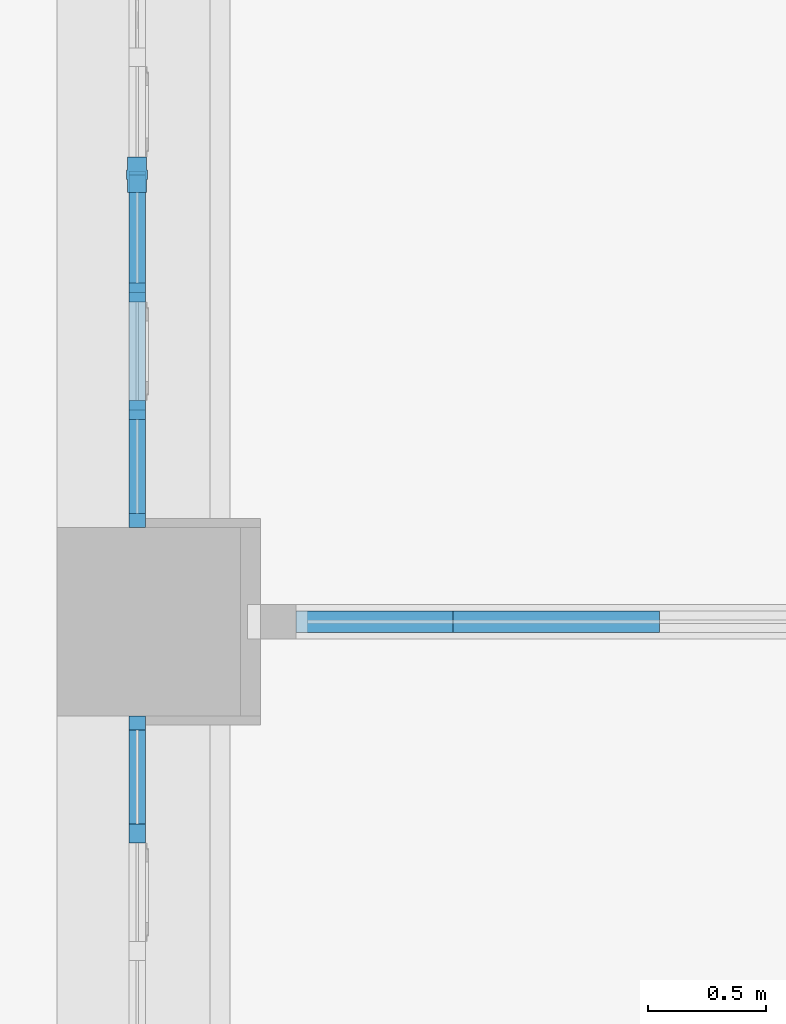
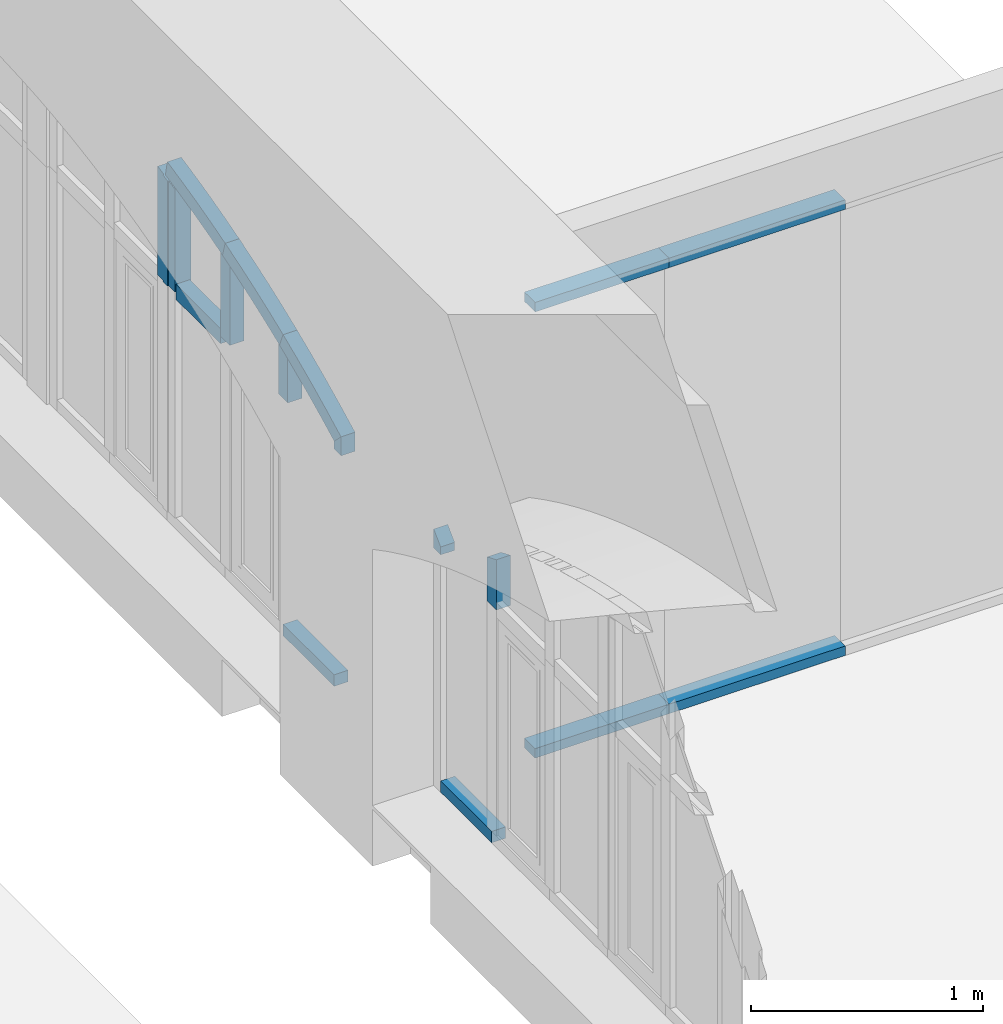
# One storey, part 29 of 88: 16 members, 3 elements without a shape of their own.
"""IFC2X3 building model written with IfcOpenShell, lengths in millimetres."""

from ifc_helpers import new_model, entity, si_unit, converted_unit, derived_unit, direction, frame, frame_2d, origin, place, context, subcontext, project, spatial, polyline, circle_curve, parameter, trimmed, segment, composite_curve, rectangle, outline, extrude, faceted_brep, source, transform, mapped, material, type_object, type_shapes, element, aggregate, save


model = new_model("IFC2X3")

# Units and contexts
model_context = context("Model", 3, precision=0.01, world=origin(), true_north=direction((6.123031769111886e-17, 1.0)))
body_context = subcontext(model_context, "Body", "Model", "MODEL_VIEW")
ifc_project = project(units=[si_unit("LENGTHUNIT", "METRE", prefix="MILLI"), si_unit("AREAUNIT", "SQUARE_METRE"), si_unit("VOLUMEUNIT", "CUBIC_METRE"), converted_unit("PLANEANGLEUNIT", "DEGREE", entity("IfcPlaneAngleMeasure", 0.017453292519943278), si_unit("PLANEANGLEUNIT", "RADIAN"), dimensions=[0, 0, 0, 0, 0, 0, 0]), si_unit("MASSUNIT", "GRAM", prefix="KILO"), derived_unit("MASSDENSITYUNIT", [(si_unit("MASSUNIT", "GRAM", prefix="KILO"), 1), (si_unit("LENGTHUNIT", "METRE"), -3)]), derived_unit("IONCONCENTRATIONUNIT", [(si_unit("MASSUNIT", "GRAM", prefix="KILO"), 1), (si_unit("LENGTHUNIT", "METRE"), -3)]), derived_unit("MOMENTOFINERTIAUNIT", [(si_unit("LENGTHUNIT", "METRE"), 4)]), si_unit("TIMEUNIT", "SECOND"), si_unit("FREQUENCYUNIT", "HERTZ"), si_unit("THERMODYNAMICTEMPERATUREUNIT", "DEGREE_CELSIUS"), derived_unit("THERMALTRANSMITTANCEUNIT", [(si_unit("MASSUNIT", "GRAM", prefix="KILO"), 1), (si_unit("THERMODYNAMICTEMPERATUREUNIT", "KELVIN"), -1), (si_unit("TIMEUNIT", "SECOND"), -3)]), derived_unit("THERMALCONDUCTANCEUNIT", [(si_unit("MASSUNIT", "GRAM", prefix="KILO"), 1), (si_unit("THERMODYNAMICTEMPERATUREUNIT", "KELVIN"), -1), (si_unit("TIMEUNIT", "SECOND"), -3), (si_unit("LENGTHUNIT", "METRE"), 1)]), derived_unit("VOLUMETRICFLOWRATEUNIT", [(si_unit("LENGTHUNIT", "METRE", prefix="DECI"), 3), (si_unit("TIMEUNIT", "SECOND"), -1)]), derived_unit("MASSFLOWRATEUNIT", [(si_unit("MASSUNIT", "GRAM", prefix="KILO"), 1), (si_unit("TIMEUNIT", "SECOND"), -1)]), derived_unit("ROTATIONALFREQUENCYUNIT", [(si_unit("TIMEUNIT", "SECOND"), -1)]), si_unit("ELECTRICCURRENTUNIT", "AMPERE"), si_unit("ELECTRICVOLTAGEUNIT", "VOLT"), si_unit("POWERUNIT", "WATT"), si_unit("FORCEUNIT", "NEWTON", prefix="KILO"), si_unit("ILLUMINANCEUNIT", "LUX"), si_unit("LUMINOUSFLUXUNIT", "LUMEN"), si_unit("LUMINOUSINTENSITYUNIT", "CANDELA"), si_unit("ENERGYUNIT", "JOULE"), derived_unit("USERDEFINED", [(si_unit("MASSUNIT", "GRAM", prefix="KILO"), -1), (si_unit("LENGTHUNIT", "METRE"), -2), (si_unit("TIMEUNIT", "SECOND"), 3), (si_unit("LUMINOUSFLUXUNIT", "LUMEN"), 1)]), derived_unit("USERDEFINED", [(si_unit("MASSUNIT", "GRAM", prefix="KILO"), 1), (si_unit("TIMEUNIT", "SECOND"), -3), (si_unit("LENGTHUNIT", "METRE"), 3), (si_unit("ELECTRICCURRENTUNIT", "AMPERE"), -2)]), derived_unit("SOUNDPOWERUNIT", [(si_unit("MASSUNIT", "GRAM", prefix="KILO"), 1), (si_unit("TIMEUNIT", "SECOND"), -3), (si_unit("LENGTHUNIT", "METRE"), 2)]), derived_unit("SOUNDPRESSUREUNIT", [(si_unit("MASSUNIT", "GRAM", prefix="KILO"), 1), (si_unit("LENGTHUNIT", "METRE"), -1), (si_unit("TIMEUNIT", "SECOND"), -2)]), derived_unit("LINEARVELOCITYUNIT", [(si_unit("LENGTHUNIT", "METRE"), 1), (si_unit("TIMEUNIT", "SECOND"), -1)]), si_unit("PRESSUREUNIT", "PASCAL"), derived_unit("USERDEFINED", [(si_unit("MASSUNIT", "GRAM", prefix="KILO"), 1), (si_unit("LENGTHUNIT", "METRE"), -2), (si_unit("TIMEUNIT", "SECOND"), -2)]), derived_unit("LINEARFORCEUNIT", [(si_unit("MASSUNIT", "GRAM", prefix="KILO"), 1), (si_unit("TIMEUNIT", "SECOND"), -2)]), derived_unit("PLANARFORCEUNIT", [(si_unit("MASSUNIT", "GRAM", prefix="KILO"), 1), (si_unit("LENGTHUNIT", "METRE"), -1), (si_unit("TIMEUNIT", "SECOND"), -2)]), derived_unit("SPECIFICHEATCAPACITYUNIT", [(si_unit("THERMODYNAMICTEMPERATUREUNIT", "KELVIN"), -1), (si_unit("LENGTHUNIT", "METRE"), 2), (si_unit("TIMEUNIT", "SECOND"), -2)]), derived_unit("HEATFLUXDENSITYUNIT", [(si_unit("MASSUNIT", "GRAM", prefix="KILO"), 1), (si_unit("TIMEUNIT", "SECOND"), -3)]), derived_unit("HEATINGVALUEUNIT", [(si_unit("LENGTHUNIT", "METRE"), 2), (si_unit("TIMEUNIT", "SECOND"), -2)]), derived_unit("VAPORPERMEABILITYUNIT", [(si_unit("LENGTHUNIT", "METRE"), -1), (si_unit("TIMEUNIT", "SECOND"), 1)]), derived_unit("DYNAMICVISCOSITYUNIT", [(si_unit("MASSUNIT", "GRAM", prefix="KILO"), 1), (si_unit("TIMEUNIT", "SECOND"), -1), (si_unit("LENGTHUNIT", "METRE"), -1)]), derived_unit("THERMALEXPANSIONCOEFFICIENTUNIT", [(si_unit("THERMODYNAMICTEMPERATUREUNIT", "KELVIN"), -1)]), derived_unit("MODULUSOFELASTICITYUNIT", [(si_unit("MASSUNIT", "GRAM", prefix="KILO"), 1), (si_unit("LENGTHUNIT", "METRE"), -1), (si_unit("TIMEUNIT", "SECOND"), -2)]), derived_unit("ISOTHERMALMOISTURECAPACITYUNIT", [(si_unit("MASSUNIT", "GRAM", prefix="KILO"), -1), (si_unit("LENGTHUNIT", "METRE"), 3)]), derived_unit("MOISTUREDIFFUSIVITYUNIT", [(si_unit("TIMEUNIT", "SECOND"), -1), (si_unit("LENGTHUNIT", "METRE"), 2)]), derived_unit("MASSPERLENGTHUNIT", [(si_unit("MASSUNIT", "GRAM", prefix="KILO"), 1), (si_unit("LENGTHUNIT", "METRE"), -1)]), derived_unit("THERMALRESISTANCEUNIT", [(si_unit("MASSUNIT", "GRAM", prefix="KILO"), -1), (si_unit("TIMEUNIT", "SECOND"), 3), (si_unit("THERMODYNAMICTEMPERATUREUNIT", "KELVIN"), 1)]), derived_unit("ACCELERATIONUNIT", [(si_unit("LENGTHUNIT", "METRE"), 1), (si_unit("TIMEUNIT", "SECOND"), -2)]), derived_unit("ANGULARVELOCITYUNIT", [(si_unit("TIMEUNIT", "SECOND"), -1), (si_unit("PLANEANGLEUNIT", "RADIAN"), 1)]), derived_unit("LINEARSTIFFNESSUNIT", [(si_unit("MASSUNIT", "GRAM", prefix="KILO"), 1), (si_unit("TIMEUNIT", "SECOND"), -2)]), derived_unit("WARPINGCONSTANTUNIT", [(si_unit("LENGTHUNIT", "METRE"), 6)]), derived_unit("LINEARMOMENTUNIT", [(si_unit("MASSUNIT", "GRAM", prefix="KILO"), 1), (si_unit("LENGTHUNIT", "METRE"), 1), (si_unit("TIMEUNIT", "SECOND"), -2)]), derived_unit("TORQUEUNIT", [(si_unit("MASSUNIT", "GRAM", prefix="KILO"), 1), (si_unit("LENGTHUNIT", "METRE"), 2), (si_unit("TIMEUNIT", "SECOND"), -2)])], contexts=[model_context])

# Site, building, storey
site_placement = place(None, origin())
site = spatial("IfcSite", under=ifc_project, at=site_placement, Name="Default", CompositionType="ELEMENT")
building_placement = place(site_placement, origin())
building = spatial("IfcBuilding", under=site, at=building_placement, Name="Eesti Rahvusraamatukogu hoone renoveerimise projekteerimistööd", CompositionType="ELEMENT")
storey_placement = place(building_placement, origin())
storey = spatial("IfcBuildingStorey", under=building, at=storey_placement, Name="1. korrus", CompositionType="ELEMENT", Elevation=0.0)

# Curtain wall, members
curtain_wall_type_1 = type_object("IfcCurtainWallType", Name="Curtain Wall:VLS Klaasvahesein profiilita 38db", PredefinedType="NOTDEFINED")
curtain_wall_1_placement = place(storey_placement, origin())
curtain_wall_1 = element("IfcCurtainWall", 1, at=curtain_wall_1_placement, inside=storey, type_object=curtain_wall_type_1, Name="Curtain Wall:VLS Klaasvahesein profiilita 38db", ObjectType="Curtain Wall:VLS Klaasvahesein profiilita 38db")
ifc_material_1 = material(Name="Aluminum")
member_type_1 = type_object("IfcMemberType", Name="Rectangular Mullion:50mm x 92mm", PredefinedType="MULLION", material=ifc_material_1)
shared_shape_1 = source(origin(), body_context, "Body", "SweptSolid", [
    extrude(rectangle(XDim=50.0, YDim=92.0, at=frame_2d((0.0, 3.552713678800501e-15), x_axis=(1.0, 0.0))), frame((-25.0, 0.0, -668.0), z_axis=(0.0, 0.0, 1.0), x_axis=(-1.0, 0.0, 0.0)), (0.0, 0.0, 1.0), 668.000000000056),
])
type_shapes(member_type_1, [shared_shape_1])
member_1_placement = place(curtain_wall_1_placement, frame((-35097.499999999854, 18390.0, 4050.0), z_axis=(1.0, 0.0, 0.0), x_axis=(0.0, 0.0, 1.0)))
member_1 = element("IfcMember", 2, at=member_1_placement, type_object=member_type_1, material=ifc_material_1, Name="Rectangular Mullion:50mm x 92mm", ObjectType="Rectangular Mullion:50mm x 92mm", context=body_context, shape_type="MappedRepresentation", body=[
    mapped(shared_shape_1, transform((0.0, 0.0, 0.0), scale=1.0)),
])
member_type_2 = type_object("IfcMemberType", Name="Rectangular Mullion:50mm x 92mm", PredefinedType="MULLION", material=ifc_material_1)
shared_shape_2 = source(origin(), body_context, "Body", "SweptSolid", [
    extrude(rectangle(XDim=50.0, YDim=92.0, at=frame_2d((0.0, 3.552713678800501e-15), x_axis=(1.0, 0.0))), frame((-25.0, 0.0, -877.5000000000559), z_axis=(0.0, 0.0, 1.0), x_axis=(-1.0, 0.0, 0.0)), (0.0, 0.0, 1.0), 877.500000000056),
])
type_shapes(member_type_2, [shared_shape_2])
member_2_placement = place(curtain_wall_1_placement, frame((-34220.0, 18390.0, 4050.0), z_axis=(1.0, 0.0, 0.0), x_axis=(0.0, 0.0, 1.0)))
member_2 = element("IfcMember", 3, at=member_2_placement, type_object=member_type_2, material=ifc_material_1, Name="Rectangular Mullion:50mm x 92mm", ObjectType="Rectangular Mullion:50mm x 92mm", context=body_context, shape_type="MappedRepresentation", body=[
    mapped(shared_shape_2, transform((0.0, 0.0, 0.0), scale=1.0)),
])
member_type_3 = type_object("IfcMemberType", Name="Rectangular Mullion:50mm x 92mm", PredefinedType="MULLION", material=ifc_material_1)
shared_shape_3 = source(origin(), body_context, "Body", "SweptSolid", [
    extrude(rectangle(XDim=50.0, YDim=92.0, at=frame_2d((0.0, 3.552713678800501e-15), x_axis=(1.0, 0.0))), frame((-25.0, 0.0, -668.0), z_axis=(0.0, 0.0, 1.0), x_axis=(-1.0, 0.0, 0.0)), (0.0, 0.0, 1.0), 668.0000000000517),
])
type_shapes(member_type_3, [shared_shape_3])
member_3_placement = place(curtain_wall_1_placement, frame((-35765.499999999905, 18390.0, 1650.0), z_axis=(-1.0, 0.0, 0.0), x_axis=(0.0, 0.0, -1.0)))
member_3 = element("IfcMember", 4, at=member_3_placement, type_object=member_type_3, material=ifc_material_1, Name="Rectangular Mullion:50mm x 92mm", ObjectType="Rectangular Mullion:50mm x 92mm", context=body_context, shape_type="MappedRepresentation", body=[
    mapped(shared_shape_3, transform((0.0, 0.0, 0.0), scale=1.0)),
])
member_type_4 = type_object("IfcMemberType", Name="Rectangular Mullion:50mm x 92mm", PredefinedType="MULLION", material=ifc_material_1)
shared_shape_4 = source(origin(), body_context, "Body", "SweptSolid", [
    extrude(rectangle(XDim=50.0, YDim=92.0, at=frame_2d((0.0, 3.552713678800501e-15), x_axis=(1.0, 0.0))), frame((-25.0, 0.0, -877.5000000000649), z_axis=(0.0, 0.0, 1.0), x_axis=(-1.0, 0.0, 0.0)), (0.0, 0.0, 1.0), 877.5000000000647),
])
type_shapes(member_type_4, [shared_shape_4])
member_4_placement = place(curtain_wall_1_placement, frame((-35097.499999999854, 18390.0, 1650.0), z_axis=(-1.0, 0.0, 0.0), x_axis=(0.0, 0.0, -1.0)))
member_4 = element("IfcMember", 5, at=member_4_placement, type_object=member_type_4, material=ifc_material_1, Name="Rectangular Mullion:50mm x 92mm", ObjectType="Rectangular Mullion:50mm x 92mm", context=body_context, shape_type="MappedRepresentation", body=[
    mapped(shared_shape_4, transform((0.0, 0.0, 0.0), scale=1.0)),
])
aggregate(curtain_wall_1, [member_1, member_2, member_3, member_4])

curtain_wall_type_2 = type_object("IfcCurtainWallType", Name="Curtain Wall:Ak-02", PredefinedType="NOTDEFINED")
curtain_wall_2_placement = place(storey_placement, origin())
curtain_wall_2 = element("IfcCurtainWall", 6, at=curtain_wall_2_placement, inside=storey, type_object=curtain_wall_type_2, Name="Curtain Wall:Ak-02", ObjectType="Curtain Wall:Ak-02")
ifc_material_2 = material(Name="LUMION_dark steel window frames")
member_type_5 = type_object("IfcMemberType", Name="Rectangular Mullion:NEW 80x70mm", PredefinedType="MULLION", material=ifc_material_2)
shared_shape_5 = source(origin(), body_context, "Body", "SweptSolid", [
    extrude(outline(composite_curve([segment(polyline([(-51.95542765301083, -255.69780513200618), (28.044572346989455, -255.69780513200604)]), True, "CONTINUOUS"), segment(trimmed(circle_curve(frame_2d((5468.760252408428, -255.6978051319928), x_axis=(-0.9956372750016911, 0.09330818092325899)), 5440.715680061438), [parameter(3.5622212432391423e-13)], [parameter(5.353953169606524)], True, "PARAMETER"), False, "CONTINUOUS"), segment(polyline([(51.78091865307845, 251.96547789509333), (-27.870063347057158, 259.4301323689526)]), True, "CONTINUOUS"), segment(trimmed(circle_curve(frame_2d((5468.760252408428, -255.6978051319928), x_axis=(-0.9956372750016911, 0.09330818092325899)), 5520.715680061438), [parameter(3.5622212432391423e-13)], [parameter(5.353953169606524)], True, "PARAMETER"), True, "CONTINUOUS")], self_intersect=False)), frame((-51.9554276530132, -35.0, -255.6978051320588), z_axis=(0.0, 1.0, 0.0), x_axis=(-0.9956372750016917, 0.0, 0.09330818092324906)), (0.0, 0.0, 1.0), 70.00000000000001),
])
type_shapes(member_type_5, [shared_shape_5])
member_5_placement = place(curtain_wall_2_placement, frame((-36440.0, 19790.0, 3733.6333100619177), z_axis=(0.0, -0.9570819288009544, -0.289817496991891), x_axis=(0.0, -0.289817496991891, 0.9570819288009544)))
member_5 = element("IfcMember", 7, at=member_5_placement, type_object=member_type_5, material=ifc_material_2, Name="Rectangular Mullion:NEW 80x70mm", ObjectType="Rectangular Mullion:NEW 80x70mm", context=body_context, shape_type="MappedRepresentation", body=[
    mapped(shared_shape_5, transform((0.0, 0.0, 0.0), scale=1.0)),
])
member_type_6 = type_object("IfcMemberType", Name="Rectangular Mullion:NEW 80x70mm", PredefinedType="MULLION", material=ifc_material_2)
shared_shape_6 = source(origin(), body_context, "Body", "SweptSolid", [
    extrude(outline(composite_curve([segment(polyline([(-52.66438607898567, -263.1530214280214), (27.33561392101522, -263.1530214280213)]), True, "CONTINUOUS"), segment(trimmed(circle_curve(frame_2d((5468.05129398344, -263.15302142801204), x_axis=(-0.9953785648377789, 0.09602870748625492)), 5440.715680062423), [parameter(3.5622212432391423e-13)], [parameter(5.510531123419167)], True, "PARAMETER"), False, "CONTINUOUS"), segment(polyline([(52.47952867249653, 259.31187312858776), (-27.150756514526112, 266.99416972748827)]), True, "CONTINUOUS"), segment(trimmed(circle_curve(frame_2d((5468.05129398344, -263.15302142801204), x_axis=(-0.9953785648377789, 0.09602870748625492)), 5520.715680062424), [parameter(3.5622212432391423e-13)], [parameter(5.510531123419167)], True, "PARAMETER"), True, "CONTINUOUS")], self_intersect=False)), frame((-52.66438607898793, -35.0, -263.1530214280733), z_axis=(0.0, 1.0, 0.0), x_axis=(-0.9953785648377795, 0.0, 0.09602870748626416)), (0.0, 0.0, 1.0), 70.0),
])
type_shapes(member_type_6, [shared_shape_6])
member_6_placement = place(curtain_wall_2_placement, frame((-36440.0, 19290.0, 3555.5687442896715), z_axis=(0.0, -0.9248280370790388, -0.38038546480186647), x_axis=(0.0, -0.38038546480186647, 0.9248280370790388)))
member_6 = element("IfcMember", 8, at=member_6_placement, type_object=member_type_6, material=ifc_material_2, Name="Rectangular Mullion:NEW 80x70mm", ObjectType="Rectangular Mullion:NEW 80x70mm", context=body_context, shape_type="MappedRepresentation", body=[
    mapped(shared_shape_6, transform((0.0, 0.0, 0.0), scale=1.0)),
])
member_type_7 = type_object("IfcMemberType", Name="Rectangular Mullion:NEW 80x70mm", PredefinedType="MULLION", material=ifc_material_2)
shared_shape_7 = source(origin(), body_context, "Body", "SweptSolid", [
    extrude(outline(composite_curve([segment(polyline([(-53.11529804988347, -267.70979815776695), (26.884701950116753, -267.709798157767)]), True, "CONTINUOUS"), segment(trimmed(circle_curve(frame_2d((5467.600382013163, -267.70979815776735), x_axis=(-0.9949883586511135, 0.0999908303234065)), 5440.7156800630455), [parameter(0.26669094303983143)], [parameter(5.738642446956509)], True, "PARAMETER"), False, "CONTINUOUS"), segment(polyline([(51.67804717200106, 251.10844964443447), (-25.447451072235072, 284.3111466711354)]), True, "CONTINUOUS"), segment(trimmed(circle_curve(frame_2d((5467.600382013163, -267.70979815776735), x_axis=(-0.9949883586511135, 0.0999908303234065)), 5520.7156800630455), [parameter(3.5622212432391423e-13)], [parameter(5.738642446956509)], True, "PARAMETER"), True, "CONTINUOUS")], self_intersect=False)), frame((-53.748425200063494, -35.0, -280.34176941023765), z_axis=(0.0, 1.0, 0.0), x_axis=(-0.9949883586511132, 0.0, 0.0999908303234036)), (0.0, 0.0, 1.0), 69.99999999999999),
])
type_shapes(member_type_7, [shared_shape_7])
member_7_placement = place(curtain_wall_2_placement, frame((-36440.0, 18790.0, 3320.0), z_axis=(0.0, -0.882158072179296, -0.47095343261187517), x_axis=(0.0, -0.47095343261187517, 0.882158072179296)))
member_7 = element("IfcMember", 9, at=member_7_placement, type_object=member_type_7, material=ifc_material_2, Name="Rectangular Mullion:NEW 80x70mm", ObjectType="Rectangular Mullion:NEW 80x70mm", context=body_context, shape_type="MappedRepresentation", body=[
    mapped(shared_shape_7, transform((0.0, 0.0, 0.0), scale=1.0)),
])

# Curtain wall, member
curtain_wall_3_placement = place(storey_placement, origin())
curtain_wall_3 = element("IfcCurtainWall", 10, at=curtain_wall_3_placement, inside=storey, type_object=curtain_wall_type_2, Name="Curtain Wall:Ak-02", ObjectType="Curtain Wall:Ak-02")
member_type_8 = type_object("IfcMemberType", Name="Rectangular Mullion:NEW 80x70mm", PredefinedType="MULLION", material=ifc_material_2)
shared_shape_8 = source(origin(), body_context, "Body", "SweptSolid", [
    extrude(outline(composite_curve([segment(polyline([(-151.82490852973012, -33.91383256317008), (113.68279751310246, -33.91383256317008)]), True, "CONTINUOUS"), segment(trimmed(circle_curve(frame_2d((-4921.968809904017, -2093.9138325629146), x_axis=(0.9570819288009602, 0.2898174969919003)), 5440.715680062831), [parameter(5.401610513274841)], [parameter(5.510531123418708)], True, "PARAMETER"), True, "CONTINUOUS"), segment(trimmed(circle_curve(frame_2d((-4921.968809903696, -2093.9138325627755), x_axis=(0.9248280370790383, 0.38038546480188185)), 5440.7156800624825), [parameter(0.0)], [parameter(0.8043376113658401)], True, "PARAMETER"), True, "CONTINUOUS"), segment(polyline([(80.20942675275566, 46.08616743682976), (-151.82490852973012, 46.08616743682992)]), True, "CONTINUOUS"), segment(polyline([(-151.82490852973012, 46.08616743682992), (-151.82490852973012, -33.91383256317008)]), True, "CONTINUOUS")], self_intersect=False)), frame((6.086167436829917, -35.0, -151.82490852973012), z_axis=(0.0, 1.0, 0.0), x_axis=(0.0, 0.0, -1.0)), (0.0, 0.0, 1.0), 69.99999999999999),
])
type_shapes(member_type_8, [shared_shape_8])
member_8_placement = place(curtain_wall_3_placement, frame((-36440.0, 17490.0, 3220.0), z_axis=(0.0, 0.0, -1.0), x_axis=(0.0, -1.0, 0.0)))
member_8 = element("IfcMember", 11, at=member_8_placement, type_object=member_type_8, material=ifc_material_2, Name="Rectangular Mullion:NEW 80x70mm", ObjectType="Rectangular Mullion:NEW 80x70mm", context=body_context, shape_type="MappedRepresentation", body=[
    mapped(shared_shape_8, transform((0.0, 0.0, 0.0), scale=1.0)),
])

# Member
member_type_9 = type_object("IfcMemberType", Name="Rectangular Mullion:NEW 150x90mm", PredefinedType="MULLION", material=ifc_material_2)
shared_shape_9 = source(origin(), body_context, "Body", "Brep", [
    faceted_brep([(-20.0, -40.0, 0.0), (-20.0, -45.0, 0.0), (20.0, -45.0, 0.0), (20.0, -40.0, 0.0), (75.0, -40.0, 0.0), (75.0, 40.0, 0.0), (20.0, 40.0, 0.0), (20.0, 45.0, 0.0), (-20.0, 45.0, 0.0), (-20.0, 40.0, 0.0), (-75.0, 40.0, 0.0), (-75.0, -40.0, 0.0), (-20.0, 40.0, -562.3027332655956), (-47.48603249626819, 40.0, -567.7959127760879), (-75.0, 40.0, -573.1474168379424), (75.0, 40.0, -542.1778237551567), (47.51534075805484, 40.0, -548.1824945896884), (20.0, 40.0, -554.044967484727), (-75.0, -40.0, -573.1474168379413), (-47.48603249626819, -40.0, -567.7959127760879), (-20.0, -40.0, -562.3027332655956), (20.0, -40.0, -554.0449674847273), (47.51534075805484, -40.0, -548.1824945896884), (75.0, -40.0, -542.1778237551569), (-20.0, -45.0, -562.3027332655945), (-20.0, 45.0, -562.3027332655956), (-17.969902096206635, -45.0, -561.891167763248), (-15.939962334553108, -45.0, -561.4788296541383), (2.036281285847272, -45.0, -557.7922042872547), (20.0, -45.0, -554.044967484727), (20.0, 45.0, -554.0449674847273), (2.0362812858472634, 45.0, -557.7922042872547), (-15.939962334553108, 45.0, -561.4788296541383), (-17.969902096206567, 45.0, -561.8911677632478), (-15.939962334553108, -33.75000000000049, -561.4788296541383), (-15.939962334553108, -22.50000000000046, -561.4788296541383), (-15.939962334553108, 33.7499999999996, -561.4788296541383), (-15.939962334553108, 22.49999999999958, -561.4788296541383), (-15.939962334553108, 0.0, -561.4788296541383)], [[[0, 1, 2, 3, 4, 5, 6, 7, 8, 9, 10, 11]], [[10, 9, 12, 13, 14]], [[6, 5, 15, 16, 17]], [[11, 10, 14, 18]], [[0, 11, 18, 19, 20]], [[4, 3, 21, 22, 23]], [[1, 0, 20, 24]], [[9, 8, 25, 12]], [[1, 24, 26, 27, 28, 29, 2]], [[3, 2, 29, 21]], [[7, 6, 17, 30]], [[5, 4, 23, 15]], [[7, 30, 31, 32, 33, 25, 8]], [[26, 20, 27]], [[34, 27, 20, 35]], [[12, 32, 36, 37]], [[12, 33, 32]], [[12, 25, 33]], [[20, 26, 24]], [[38, 35, 19, 13, 37]], [[19, 35, 20]], [[13, 19, 18, 14]], [[12, 37, 13]], [[15, 23, 22, 16]], [[16, 22, 21, 17]], [[21, 29, 28, 31, 30, 17]], [[31, 28, 27, 34, 35, 38, 37, 36, 32]]]),
])
type_shapes(member_type_9, [shared_shape_9])
member_9_placement = place(curtain_wall_2_placement, frame((-36440.0, 20290.0, 3220.0), z_axis=(0.0, 0.0, -1.0), x_axis=(0.0, -1.0, 0.0)))
member_9 = element("IfcMember", 12, at=member_9_placement, type_object=member_type_9, material=ifc_material_2, Name="Rectangular Mullion:NEW 150x90mm", ObjectType="Rectangular Mullion:NEW 150x90mm", context=body_context, shape_type="MappedRepresentation", body=[
    mapped(shared_shape_9, transform((0.0, 0.0, 0.0), scale=1.0)),
])

member_type_10 = type_object("IfcMemberType", Name="Rectangular Mullion:NEW 80x70mm", PredefinedType="MULLION", material=ifc_material_2)
shared_shape_10 = source(origin(), body_context, "Body", "SweptSolid", [
    extrude(outline(composite_curve([segment(polyline([(-259.341776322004, -44.637079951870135), (158.1715113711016, -44.637079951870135)]), True, "CONTINUOUS"), segment(trimmed(circle_curve(frame_2d((-5029.485677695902, 1595.362920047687), x_axis=(0.9248280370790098, -0.3803854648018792)), 5440.715680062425), [parameter(4.8139927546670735)], [parameter(5.510531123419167)], True, "PARAMETER"), True, "CONTINUOUS"), segment(trimmed(circle_curve(frame_2d((-5029.48567769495, 1595.3629200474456), x_axis=(0.9570819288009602, -0.28981749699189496)), 5440.715680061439), [parameter(0.0)], [parameter(0.18492371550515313)], True, "PARAMETER"), True, "CONTINUOUS"), segment(polyline([(182.78706183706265, 35.36292004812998), (-259.341776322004, 35.362920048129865)]), True, "CONTINUOUS"), segment(polyline([(-259.341776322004, 35.362920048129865), (-259.341776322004, -44.637079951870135)]), True, "CONTINUOUS")], self_intersect=False)), frame((-4.637079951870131, -35.0, -259.341776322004), z_axis=(0.0, 1.0, 0.0), x_axis=(0.0, 0.0, -1.0)), (0.0, 0.0, 1.0), 69.99999999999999),
])
type_shapes(member_type_10, [shared_shape_10])
member_10_placement = place(curtain_wall_2_placement, frame((-36440.0, 19790.0, 3220.0), z_axis=(0.0, 0.0, -1.0), x_axis=(0.0, -1.0, 0.0)))
member_10 = element("IfcMember", 13, at=member_10_placement, type_object=member_type_10, material=ifc_material_2, Name="Rectangular Mullion:NEW 80x70mm", ObjectType="Rectangular Mullion:NEW 80x70mm", context=body_context, shape_type="MappedRepresentation", body=[
    mapped(shared_shape_10, transform((0.0, 0.0, 0.0), scale=1.0)),
])

member_type_11 = type_object("IfcMemberType", Name="Rectangular Mullion:NEW 80x70mm", PredefinedType="MULLION", material=ifc_material_2)
shared_shape_11 = source(origin(), body_context, "Body", "SweptSolid", [
    extrude(outline(composite_curve([segment(polyline([(-151.8249085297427, -46.086167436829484), (80.20942675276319, -46.086167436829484)]), True, "CONTINUOUS"), segment(trimmed(circle_curve(frame_2d((-4921.968809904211, 2093.913832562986), x_axis=(0.8821580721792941, -0.47095343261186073)), 5440.7156800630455), [parameter(4.934304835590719)], [parameter(5.738642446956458)], True, "PARAMETER"), True, "CONTINUOUS"), segment(trimmed(circle_curve(frame_2d((-4921.968809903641, 2093.9138325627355), x_axis=(0.9248280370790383, -0.3803854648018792)), 5440.715680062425), [parameter(0.0)], [parameter(0.1089206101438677)], True, "PARAMETER"), True, "CONTINUOUS"), segment(polyline([(113.68279751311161, 33.91383256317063), (-151.8249085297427, 33.913832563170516)]), True, "CONTINUOUS"), segment(polyline([(-151.8249085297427, 33.913832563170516), (-151.8249085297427, -46.086167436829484)]), True, "CONTINUOUS")], self_intersect=False)), frame((-6.086167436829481, -35.0, -151.8249085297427), z_axis=(0.0, 1.0, 0.0), x_axis=(0.0, 0.0, -1.0)), (0.0, 0.0, 1.0), 70.00000000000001),
])
type_shapes(member_type_11, [shared_shape_11])
member_11_placement = place(curtain_wall_2_placement, frame((-36440.0, 19290.0, 3220.0), z_axis=(0.0, 0.0, -1.0), x_axis=(0.0, -1.0, 0.0)))
member_11 = element("IfcMember", 14, at=member_11_placement, type_object=member_type_11, material=ifc_material_2, Name="Rectangular Mullion:NEW 80x70mm", ObjectType="Rectangular Mullion:NEW 80x70mm", context=body_context, shape_type="MappedRepresentation", body=[
    mapped(shared_shape_11, transform((0.0, 0.0, 0.0), scale=1.0)),
])

member_type_12 = type_object("IfcMemberType", Name="Rectangular Mullion:NEW 80x70mm", PredefinedType="MULLION", material=ifc_material_2)
shared_shape_12 = source(origin(), body_context, "Body", "SweptSolid", [
    extrude(rectangle(XDim=80.0, YDim=70.0, at=frame_2d((0.0, -3.552713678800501e-15), x_axis=(1.0, 0.0))), frame((0.0, 0.0, -385.0), z_axis=(0.0, 0.0, 1.0), x_axis=(-1.0, 0.0, 0.0)), (0.0, 0.0, 1.0), 384.99999999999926),
])
type_shapes(member_type_12, [shared_shape_12])
member_12_placement = place(curtain_wall_2_placement, frame((-36440.0, 19830.0, 3220.0), z_axis=(0.0, -1.0, 0.0), x_axis=(0.0, 0.0, 1.0)))
member_12 = element("IfcMember", 15, at=member_12_placement, type_object=member_type_12, material=ifc_material_2, Name="Rectangular Mullion:NEW 80x70mm", ObjectType="Rectangular Mullion:NEW 80x70mm", context=body_context, shape_type="MappedRepresentation", body=[
    mapped(shared_shape_12, transform((0.0, 0.0, 0.0), scale=1.0)),
])

member_type_13 = type_object("IfcMemberType", Name="Rectangular Mullion:NEW 60x70mm", PredefinedType="MULLION", material=ifc_material_2)
shared_shape_13 = source(origin(), body_context, "Body", "SweptSolid", [
    extrude(rectangle(XDim=60.0, YDim=70.0, at=frame_2d((0.0, 3.552713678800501e-15), x_axis=(1.0, 0.0))), frame((-30.0, 0.0, -440.0), z_axis=(0.0, 0.0, 1.0), x_axis=(-1.0, 0.0, 0.0)), (0.0, 0.0, 1.0), 439.9999999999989),
])
type_shapes(member_type_13, [shared_shape_13])
member_13_placement = place(curtain_wall_2_placement, frame((-36440.0, 19290.0, 1970.0), z_axis=(0.0, 1.0, 0.0), x_axis=(0.0, 0.0, -1.0)))
member_13 = element("IfcMember", 16, at=member_13_placement, type_object=member_type_13, material=ifc_material_2, Name="Rectangular Mullion:NEW 60x70mm", ObjectType="Rectangular Mullion:NEW 60x70mm", context=body_context, shape_type="MappedRepresentation", body=[
    mapped(shared_shape_13, transform((0.0, 0.0, 0.0), scale=1.0)),
])

member_type_14 = type_object("IfcMemberType", Name="Rectangular Mullion:NEW 60x70mm", PredefinedType="MULLION", material=ifc_material_2)
shared_shape_14 = source(origin(), body_context, "Body", "SweptSolid", [
    extrude(rectangle(XDim=60.0, YDim=70.0, at=frame_2d((0.0, 3.552713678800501e-15), x_axis=(1.0, 0.0))), frame((-30.0, 0.0, -440.0), z_axis=(0.0, 0.0, 1.0), x_axis=(-1.0, 0.0, 0.0)), (0.0, 0.0, 1.0), 439.9999999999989),
])
type_shapes(member_type_14, [shared_shape_14])
member_14_placement = place(curtain_wall_3_placement, frame((-36440.0, 17930.0, 1970.0), z_axis=(0.0, 1.0, 0.0), x_axis=(0.0, 0.0, -1.0)))
member_14 = element("IfcMember", 17, at=member_14_placement, type_object=member_type_14, material=ifc_material_2, Name="Rectangular Mullion:NEW 60x70mm", ObjectType="Rectangular Mullion:NEW 60x70mm", context=body_context, shape_type="MappedRepresentation", body=[
    mapped(shared_shape_14, transform((0.0, 0.0, 0.0), scale=1.0)),
])

member_type_15 = type_object("IfcMemberType", Name="Rectangular Mullion:NEW 60x70mm", PredefinedType="MULLION", material=ifc_material_2)
shared_shape_15 = source(origin(), body_context, "Body", "SweptSolid", [
    extrude(outline(polyline([(-35.33630318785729, -30.0), (64.6636968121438, -30.0), (6.008909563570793, 30.0), (-35.33630318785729, 30.0), (-35.33630318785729, -30.0)])), frame((-30.0, -35.0, -35.33630318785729), z_axis=(0.0, 1.0, 0.0), x_axis=(0.0, 0.0, -1.0)), (0.0, 0.0, 1.0), 69.99999999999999),
])
type_shapes(member_type_15, [shared_shape_15])
member_15_placement = place(curtain_wall_2_placement, frame((-36440.0, 18790.0, 3220.0), z_axis=(0.0, 0.0, -1.0), x_axis=(0.0, -1.0, 0.0)))
member_15 = element("IfcMember", 18, at=member_15_placement, type_object=member_type_15, material=ifc_material_2, Name="Rectangular Mullion:NEW 60x70mm", ObjectType="Rectangular Mullion:NEW 60x70mm", context=body_context, shape_type="MappedRepresentation", body=[
    mapped(shared_shape_15, transform((0.0, 0.0, 0.0), scale=1.0)),
])

aggregate(curtain_wall_2, [member_5, member_6, member_7, member_9, member_10, member_11, member_12, member_13, member_15])

member_type_16 = type_object("IfcMemberType", Name="Rectangular Mullion:NEW 60x70mm", PredefinedType="MULLION", material=ifc_material_2)
shared_shape_16 = source(origin(), body_context, "Body", "SweptSolid", [
    extrude(outline(polyline([(-64.66369681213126, -30.0), (35.336303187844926, -30.0), (35.336303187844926, 30.0), (-6.008909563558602, 30.0), (-64.66369681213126, -30.0)])), frame((-30.0, -35.0, -64.66369681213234), z_axis=(0.0, 1.0, 0.0), x_axis=(0.0, 0.0, -1.0)), (0.0, 0.0, 1.0), 69.99999999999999),
])
type_shapes(member_type_16, [shared_shape_16])
member_16_placement = place(curtain_wall_3_placement, frame((-36440.0, 17990.0, 3320.0), z_axis=(0.0, 0.0, 1.0), x_axis=(0.0, 1.0, 0.0)))
member_16 = element("IfcMember", 19, at=member_16_placement, type_object=member_type_16, material=ifc_material_2, Name="Rectangular Mullion:NEW 60x70mm", ObjectType="Rectangular Mullion:NEW 60x70mm", context=body_context, shape_type="MappedRepresentation", body=[
    mapped(shared_shape_16, transform((0.0, 0.0, 0.0), scale=1.0)),
])

aggregate(curtain_wall_3, [member_8, member_14, member_16])

save(model, "model.ifc")
